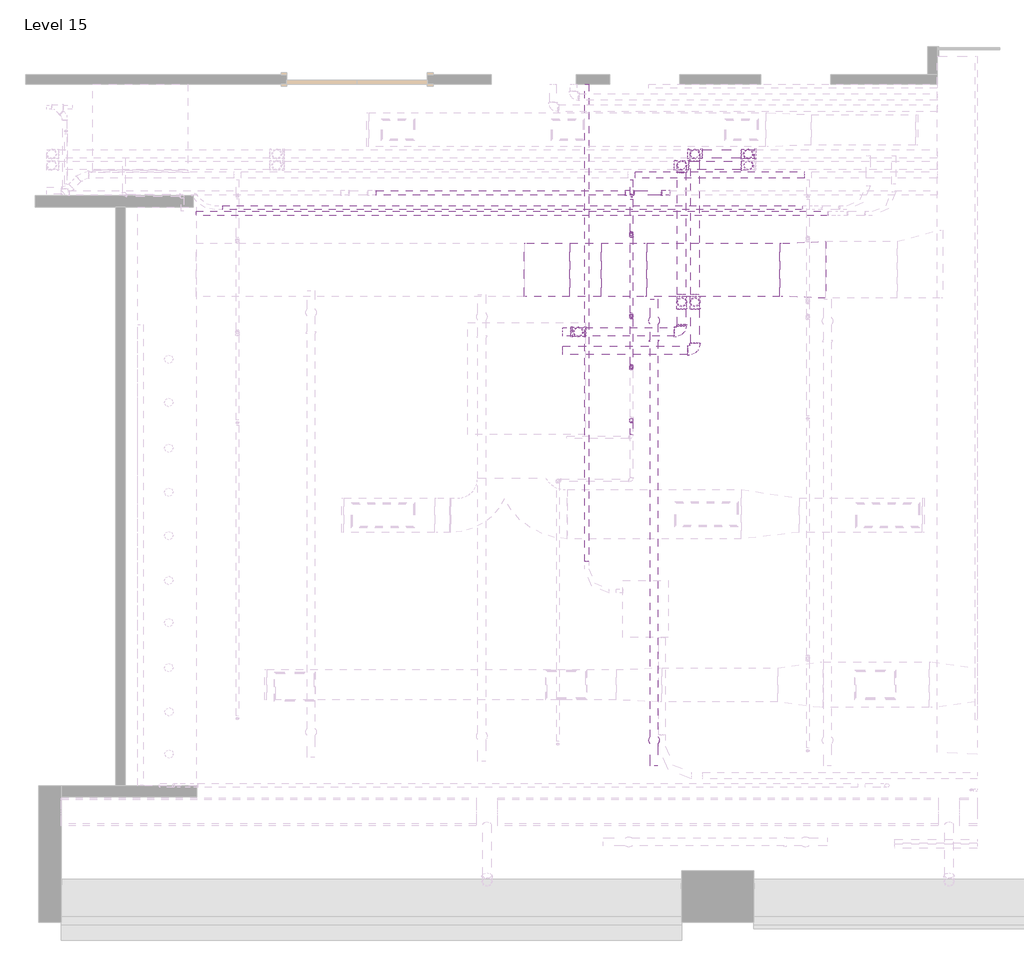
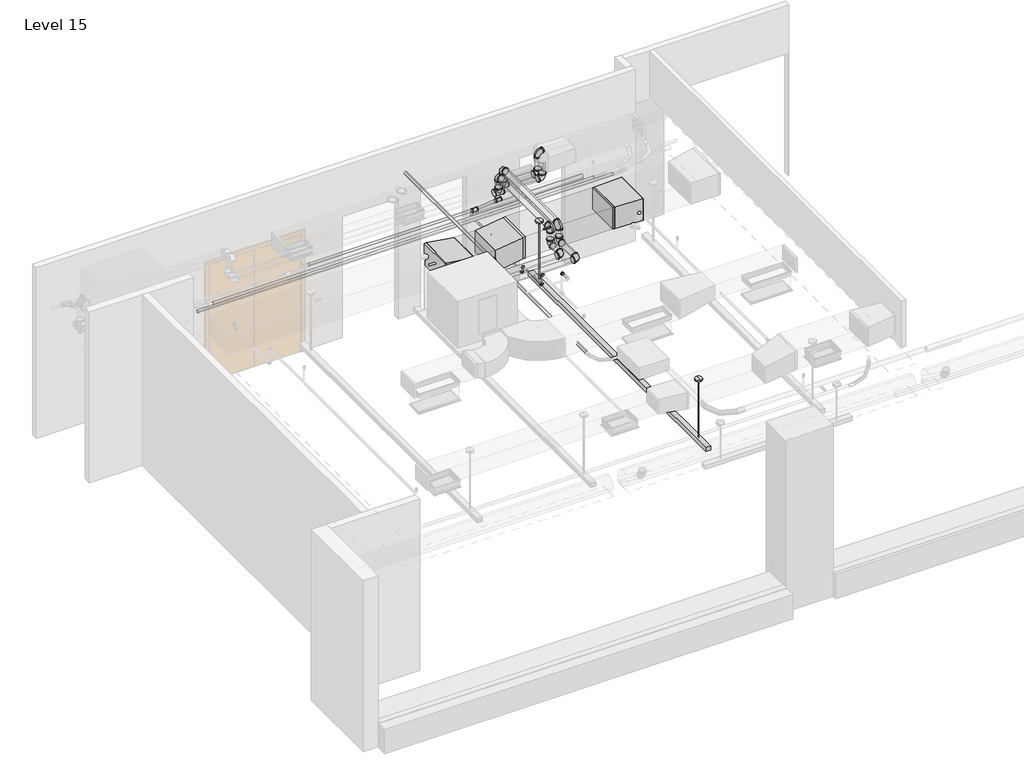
# One storey, part 10 of 11: 28 pipe segments, 24 pipe fittings, 3 cable carrier segments, 3 duct fittings, 2 duct segments, 1 light fixture.
"""IFC4 building model written with IfcOpenShell, lengths in millimetres."""

from ifc_helpers import new_model, si_unit, point, frame, frame_2d, origin, place, context, project, spatial, polyline, circle_curve, trimmed, segment, composite_curve, outline, extrude, transform, mapped, element, save
from components import rectangular_length_eccentric_transition_dtl_standard_cac19188, rectangular_length_eccentric_transition_dtl_standard_1bdf21b8, light_fixture_7ab595b3, standard_237da642, threaded_elbow_standard_6d9bc947, threaded_elbow_standard_748a37ac, threaded_tee_standard_9993dc0c

model = new_model("IFC4")

# Units and contexts
model_context = context("Model", 3, world=origin())
ifc_project = project(units=[si_unit("LENGTHUNIT", "METRE", prefix="MILLI")], contexts=[model_context])

# Site, building, storey
site = spatial("IfcSite", under=ifc_project)
building = spatial("IfcBuilding", under=site)
storey = spatial("IfcBuildingStorey", under=building, Name="Level 15", Elevation=51206.4)

# Cable carrier segments
placement = place(None, origin())
element("IfcCableCarrierSegment", 1, ObjectType="Conduit", at=placement, inside=storey, context=model_context, shape_type="SweptSolid", body=[
    extrude(outline(composite_curve([segment(trimmed(circle_curve(frame_2d((54308.375, -10808.8415084)), 27.9019), [point((54308.375, -10780.9396084))], [point((54336.2769, -10808.8415084))], False, "CARTESIAN"), True, "CONTINUOUS"), segment(trimmed(circle_curve(frame_2d((54308.375, -10808.8415084)), 27.9019), [point((54336.2769, -10808.8415084))], [point((54308.375, -10836.7434084))], False, "CARTESIAN"), True, "CONTINUOUS"), segment(trimmed(circle_curve(frame_2d((54308.375, -10808.8415084)), 27.9019), [point((54308.375, -10836.7434084))], [point((54280.4731, -10808.8415084))], False, "CARTESIAN"), True, "CONTINUOUS"), segment(trimmed(circle_curve(frame_2d((54308.375, -10808.8415084)), 27.9019), [point((54280.4731, -10808.8415084))], [point((54308.375, -10780.9396084))], False, "CARTESIAN"), True, "CONTINUOUS")], self_intersect=False)), frame((0.0, -1758.1064015, 0.0), z_axis=(0.0, 1.0, 0.0), x_axis=(0.0, 0.0, 1.0)), (0.0, 0.0, 1.0), 6391.5564511),
])
element("IfcCableCarrierSegment", 2, ObjectType="Conduit", at=placement, inside=storey, context=model_context, shape_type="SweptSolid", body=[
    extrude(outline(composite_curve([segment(trimmed(circle_curve(frame_2d((2977.9204938, 54197.25)), 27.9019), [point((3005.8223938, 54197.25))], [point((2977.9204938, 54169.3481))], False, "CARTESIAN"), True, "CONTINUOUS"), segment(trimmed(circle_curve(frame_2d((2977.9204938, 54197.25)), 27.9019), [point((2977.9204938, 54169.3481))], [point((2950.0185938, 54197.25))], False, "CARTESIAN"), True, "CONTINUOUS"), segment(trimmed(circle_curve(frame_2d((2977.9204938, 54197.25)), 27.9019), [point((2950.0185938, 54197.25))], [point((2977.9204938, 54225.1519))], False, "CARTESIAN"), True, "CONTINUOUS"), segment(trimmed(circle_curve(frame_2d((2977.9204938, 54197.25)), 27.9019), [point((2977.9204938, 54225.1519))], [point((3005.8223938, 54197.25))], False, "CARTESIAN"), True, "CONTINUOUS")], self_intersect=False)), frame((-15682.5023602, 0.0, 0.0), z_axis=(1.0, 0.0, 0.0), x_axis=(0.0, 1.0, 0.0)), (0.0, 0.0, 1.0), 7756.8010538),
])
element("IfcCableCarrierSegment", 3, ObjectType="Conduit", at=placement, inside=storey, context=model_context, shape_type="SweptSolid", body=[
    extrude(outline(composite_curve([segment(trimmed(circle_curve(frame_2d((2901.7204938, 54197.25)), 27.9019), [point((2929.6223938, 54197.25))], [point((2901.7204938, 54169.3481))], False, "CARTESIAN"), True, "CONTINUOUS"), segment(trimmed(circle_curve(frame_2d((2901.7204938, 54197.25)), 27.9019), [point((2901.7204938, 54169.3481))], [point((2873.8185938, 54197.25))], False, "CARTESIAN"), True, "CONTINUOUS"), segment(trimmed(circle_curve(frame_2d((2901.7204938, 54197.25)), 27.9019), [point((2873.8185938, 54197.25))], [point((2901.7204938, 54225.1519))], False, "CARTESIAN"), True, "CONTINUOUS"), segment(trimmed(circle_curve(frame_2d((2901.7204938, 54197.25)), 27.9019), [point((2901.7204938, 54225.1519))], [point((2929.6223938, 54197.25))], False, "CARTESIAN"), True, "CONTINUOUS")], self_intersect=False)), frame((-16037.0051026, 0.0, 0.0), z_axis=(1.0, 0.0, 0.0), x_axis=(0.0, 1.0, 0.0)), (0.0, 0.0, 1.0), 8454.2037962),
])

# Duct fittings
rectangular_length_eccentric_transition_dtl_standard_shape = rectangular_length_eccentric_transition_dtl_standard_cac19188(model_context)
element("IfcDuctFitting", 4, ObjectType="Rectangular Length Eccentric Transition - DTL : Standard", at=placement, inside=storey, context=model_context, shape_type="MappedRepresentation", body=[
    mapped(rectangular_length_eccentric_transition_dtl_standard_shape, transform((-8224.6642299, 2146.774678, 54140.1), x_axis=(1.0, 0.0, 0.0), y_axis=(0.0, 1.0, 0.0), z_axis=(0.0, 0.0, 1.0))),
])
rectangular_length_eccentric_transition_dtl_standard_2_shape = rectangular_length_eccentric_transition_dtl_standard_1bdf21b8(model_context)
element("IfcDuctFitting", 5, ObjectType="Rectangular Length Eccentric Transition - DTL : Standard", at=placement, inside=storey, context=model_context, shape_type="MappedRepresentation", body=[
    mapped(rectangular_length_eccentric_transition_dtl_standard_2_shape, transform((-11648.480013, 2146.774678, 54140.1), x_axis=(1.0, 0.0, 0.0), y_axis=(0.0, 1.0, 0.0), z_axis=(0.0, 0.0, 1.0))),
])
element("IfcDuctFitting", 6, ObjectType="Rectangular Length Eccentric Transition - DTL : Standard", at=placement, inside=storey, context=model_context, shape_type="MappedRepresentation", body=[
    mapped(rectangular_length_eccentric_transition_dtl_standard_2_shape, transform((-10007.0486308, 2146.774678, 54140.1), x_axis=(-1.0, 0.0, 0.0), y_axis=(0.0, -1.0, 0.0), z_axis=(0.0, 0.0, 1.0))),
])

# Duct segments
element("IfcDuctSegment", 7, ObjectType="Square Throat Elbows / S&D", at=placement, inside=storey, context=model_context, shape_type="SweptSolid", body=[
    extrude(outline(polyline([(-10007.0486308, 1791.174678), (-10007.0486308, 2502.374678), (-8224.6642299, 2502.374678), (-8224.6642299, 1791.174678), (-10007.0486308, 1791.174678)])), frame((0.0, 0.0, 53911.5), z_axis=(0.0, 0.0, 1.0), x_axis=(1.0, 0.0, 0.0)), (0.0, 0.0, 1.0), 457.2),
])
element("IfcDuctSegment", 8, ObjectType="Square Throat Elbows / S&D", at=placement, inside=storey, context=model_context, shape_type="SweptSolid", body=[
    extrude(outline(polyline([(-11038.880013, 1791.174678), (-11038.880013, 2502.374678), (-10616.6486308, 2502.374678), (-10616.6486308, 1791.174678), (-11038.880013, 1791.174678)])), frame((0.0, 0.0, 53822.6), z_axis=(0.0, 0.0, 1.0), x_axis=(1.0, 0.0, 0.0)), (0.0, 0.0, 1.0), 457.2),
])

# Light fixture
light_fixture_shape = light_fixture_7ab595b3(model_context)
element("IfcLightFixture", 9, ObjectType="Linear : 20' 8\"", at=placement, inside=storey, context=model_context, shape_type="MappedRepresentation", body=[
    mapped(light_fixture_shape, transform((-9907.8415084, 1196.5935985, 49703.9365365), x_axis=(0.0, 1.0, 0.0), y_axis=(-1.0, 0.0, 0.0), z_axis=(0.0, 0.0, 1.0))),
])

# Pipe fittings
standard_shape = standard_237da642(model_context)
element("IfcPipeFitting", 10, ObjectType="Victaulic Grooved Elbow : Standard", at=placement, inside=storey, context=model_context, shape_type="MappedRepresentation", body=[
    mapped(standard_shape, transform((-10213.0653587, 1528.4968876, 53828.95), x_axis=(0.0, 0.0, -1.0), y_axis=(0.0, 1.0, 0.0), z_axis=(1.0, 0.0, 0.0))),
])
element("IfcPipeFitting", 11, ObjectType="Victaulic Grooved Elbow : Standard", at=placement, inside=storey, context=model_context, shape_type="MappedRepresentation", body=[
    mapped(standard_shape, transform((-10213.0653587, 2620.4435985, 53828.95), x_axis=(0.0, 1.0, 0.0), y_axis=(0.0, 0.0, 1.0), z_axis=(1.0, 0.0, 0.0))),
])
element("IfcPipeFitting", 12, ObjectType="Victaulic Grooved Elbow : Standard", at=placement, inside=storey, context=model_context, shape_type="MappedRepresentation", body=[
    mapped(standard_shape, transform((-10213.0653587, 2620.4435985, 53949.6), x_axis=(0.0, 0.0, 1.0), y_axis=(0.0, 1.0, 0.0), z_axis=(-1.0, 0.0, 0.0))),
])
element("IfcPipeFitting", 13, ObjectType="Victaulic Grooved Elbow : Standard", at=placement, inside=storey, context=model_context, shape_type="MappedRepresentation", body=[
    mapped(standard_shape, transform((-10213.0653587, 842.6968876, 54216.3), x_axis=(0.0, 0.0, 1.0), y_axis=(0.0, -1.0, 0.0), z_axis=(1.0, 0.0, 0.0))),
])
element("IfcPipeFitting", 14, ObjectType="Victaulic Grooved Elbow : Standard", at=placement, inside=storey, context=model_context, shape_type="MappedRepresentation", body=[
    mapped(standard_shape, transform((-10213.0653587, 138.9643012, 54673.5), x_axis=(0.0, 0.0, 1.0), y_axis=(0.0, -1.0, 0.0), z_axis=(1.0, 0.0, 0.0))),
])
element("IfcPipeFitting", 15, ObjectType="Victaulic Grooved Elbow : Standard", at=placement, inside=storey, context=model_context, shape_type="MappedRepresentation", body=[
    mapped(standard_shape, transform((-10213.0653587, 1528.4968876, 53971.825), x_axis=(0.0, 0.0, 1.0), y_axis=(0.0, -1.0, 0.0), z_axis=(1.0, 0.0, 0.0))),
])
element("IfcPipeFitting", 16, ObjectType="Victaulic Grooved Elbow : Standard", at=placement, inside=storey, context=model_context, shape_type="MappedRepresentation", body=[
    mapped(standard_shape, transform((-10213.0653587, 842.6968876, 53971.825), x_axis=(0.0, 0.0, -1.0), y_axis=(0.0, 1.0, 0.0), z_axis=(1.0, 0.0, 0.0))),
])
threaded_elbow_standard_shape = threaded_elbow_standard_6d9bc947(model_context)
element("IfcPipeFitting", 17, ObjectType="Threaded Elbow : Standard", at=placement, inside=storey, context=model_context, shape_type="MappedRepresentation", body=[
    mapped(threaded_elbow_standard_shape, transform((-8648.6307372, 3697.146744, 54114.7), x_axis=(1.0, 0.0, 0.0), y_axis=(0.0, 0.0, 1.0), z_axis=(0.0, -1.0, 0.0))),
])
element("IfcPipeFitting", 18, ObjectType="Threaded Elbow : Standard", at=placement, inside=storey, context=model_context, shape_type="MappedRepresentation", body=[
    mapped(threaded_elbow_standard_shape, transform((-8648.6307372, 3697.146744, 54559.2), x_axis=(0.0, 0.0, 1.0), y_axis=(1.0, 0.0, 0.0), z_axis=(0.0, 1.0, 0.0))),
])
element("IfcPipeFitting", 19, ObjectType="Threaded Elbow : Standard", at=placement, inside=storey, context=model_context, shape_type="MappedRepresentation", body=[
    mapped(threaded_elbow_standard_shape, transform((-8648.6307372, 3544.746744, 54114.7), x_axis=(1.0, 0.0, 0.0), y_axis=(0.0, 0.0, 1.0), z_axis=(0.0, -1.0, 0.0))),
])
element("IfcPipeFitting", 20, ObjectType="Threaded Elbow : Standard", at=placement, inside=storey, context=model_context, shape_type="MappedRepresentation", body=[
    mapped(threaded_elbow_standard_shape, transform((-9362.2415084, 1067.3435985, 54114.7), x_axis=(1.0, 0.0, 0.0), y_axis=(0.0, 1.0, 0.0), z_axis=(0.0, 0.0, 1.0))),
])
element("IfcPipeFitting", 21, ObjectType="Threaded Elbow : Standard", at=placement, inside=storey, context=model_context, shape_type="MappedRepresentation", body=[
    mapped(threaded_elbow_standard_shape, transform((-9362.2415084, 1715.0435985, 54114.7), x_axis=(0.0, 1.0, 0.0), y_axis=(0.0, 0.0, 1.0), z_axis=(1.0, 0.0, 0.0))),
])
element("IfcPipeFitting", 22, ObjectType="Threaded Elbow : Standard", at=placement, inside=storey, context=model_context, shape_type="MappedRepresentation", body=[
    mapped(threaded_elbow_standard_shape, transform((-9362.2415084, 1715.0435985, 54457.6), x_axis=(0.0, 0.0, 1.0), y_axis=(0.0, 1.0, 0.0), z_axis=(-1.0, 0.0, 0.0))),
])
element("IfcPipeFitting", 23, ObjectType="Threaded Elbow : Standard", at=placement, inside=storey, context=model_context, shape_type="MappedRepresentation", body=[
    mapped(threaded_elbow_standard_shape, transform((-9362.2415084, 3697.146744, 54457.6), x_axis=(0.0, 1.0, 0.0), y_axis=(0.0, 0.0, -1.0), z_axis=(-1.0, 0.0, 0.0))),
])
element("IfcPipeFitting", 24, ObjectType="Threaded Elbow : Standard", at=placement, inside=storey, context=model_context, shape_type="MappedRepresentation", body=[
    mapped(threaded_elbow_standard_shape, transform((-9540.0415084, 1314.9935985, 54114.7), x_axis=(1.0, 0.0, 0.0), y_axis=(0.0, 1.0, 0.0), z_axis=(0.0, 0.0, 1.0))),
])
element("IfcPipeFitting", 25, ObjectType="Threaded Elbow : Standard", at=placement, inside=storey, context=model_context, shape_type="MappedRepresentation", body=[
    mapped(threaded_elbow_standard_shape, transform((-9540.0415084, 1715.0435985, 54114.7), x_axis=(0.0, 1.0, 0.0), y_axis=(0.0, 0.0, 1.0), z_axis=(1.0, 0.0, 0.0))),
])
element("IfcPipeFitting", 26, ObjectType="Threaded Elbow : Standard", at=placement, inside=storey, context=model_context, shape_type="MappedRepresentation", body=[
    mapped(threaded_elbow_standard_shape, transform((-9540.0415084, 1715.0435985, 54457.6), x_axis=(0.0, 0.0, 1.0), y_axis=(0.0, 1.0, 0.0), z_axis=(-1.0, 0.0, 0.0))),
])
element("IfcPipeFitting", 27, ObjectType="Threaded Elbow : Standard", at=placement, inside=storey, context=model_context, shape_type="MappedRepresentation", body=[
    mapped(threaded_elbow_standard_shape, transform((-10923.0915084, 1314.9935985, 54114.7), x_axis=(-1.0, 0.0, 0.0), y_axis=(0.0, 0.0, 1.0), z_axis=(0.0, 1.0, 0.0))),
])
element("IfcPipeFitting", 28, ObjectType="Threaded Elbow : Standard", at=placement, inside=storey, context=model_context, shape_type="MappedRepresentation", body=[
    mapped(threaded_elbow_standard_shape, transform((-10923.0915084, 1314.9935985, 54495.7), x_axis=(0.0, 0.0, 1.0), y_axis=(-1.0, 0.0, 0.0), z_axis=(0.0, -1.0, 0.0))),
])
element("IfcPipeFitting", 29, ObjectType="Threaded Elbow : Standard", at=placement, inside=storey, context=model_context, shape_type="MappedRepresentation", body=[
    mapped(threaded_elbow_standard_shape, transform((-9540.0415084, 3544.746744, 54457.6), x_axis=(0.0, 1.0, 0.0), y_axis=(0.0, 0.0, -1.0), z_axis=(-1.0, 0.0, 0.0))),
])
threaded_elbow_standard_2_shape = threaded_elbow_standard_748a37ac(model_context)
element("IfcPipeFitting", 30, ObjectType="Threaded Elbow : Standard", at=placement, inside=storey, context=model_context, shape_type="MappedRepresentation", body=[
    mapped(threaded_elbow_standard_2_shape, transform((-10237.2226091, 3176.4435985, 54190.9), x_axis=(1.0, 0.0, 0.0), y_axis=(0.0, 0.0, 1.0), z_axis=(0.0, -1.0, 0.0))),
])
element("IfcPipeFitting", 31, ObjectType="Threaded Elbow : Standard", at=placement, inside=storey, context=model_context, shape_type="MappedRepresentation", body=[
    mapped(threaded_elbow_standard_2_shape, transform((-9753.8928948, 3176.4435985, 54241.7), x_axis=(-1.0, 0.0, 0.0), y_axis=(0.0, 0.0, -1.0), z_axis=(0.0, -1.0, 0.0))),
])
threaded_tee_standard_shape = threaded_tee_standard_9993dc0c(model_context)
element("IfcPipeFitting", 32, ObjectType="Threaded Tee : Standard", at=placement, inside=storey, context=model_context, shape_type="MappedRepresentation", body=[
    mapped(threaded_tee_standard_shape, transform((-9362.2415084, 3697.146744, 54114.7), x_axis=(-1.0, 0.0, 0.0), y_axis=(0.0, 0.0, -1.0), z_axis=(0.0, -1.0, 0.0))),
])
element("IfcPipeFitting", 33, ObjectType="Threaded Tee : Standard", at=placement, inside=storey, context=model_context, shape_type="MappedRepresentation", body=[
    mapped(threaded_tee_standard_shape, transform((-9540.0415084, 3544.746744, 54114.7), x_axis=(-1.0, 0.0, 0.0), y_axis=(0.0, 0.0, -1.0), z_axis=(0.0, -1.0, 0.0))),
])

# Pipe segments
element("IfcPipeSegment", 34, ObjectType="Fire Prot Sched 10 Main", at=placement, inside=storey, context=model_context, shape_type="SweptSolid", body=[
    extrude(outline(composite_curve([segment(trimmed(circle_curve(frame_2d((-10213.0653587, 1528.4968876)), 16.7005), [point((-10196.3648587, 1528.4968876))], [point((-10213.0653587, 1511.7963876))], False, "CARTESIAN"), True, "CONTINUOUS"), segment(trimmed(circle_curve(frame_2d((-10213.0653587, 1528.4968876)), 16.7005), [point((-10213.0653587, 1511.7963876))], [point((-10229.7658587, 1528.4968876))], False, "CARTESIAN"), True, "CONTINUOUS"), segment(trimmed(circle_curve(frame_2d((-10213.0653587, 1528.4968876)), 16.7005), [point((-10229.7658587, 1528.4968876))], [point((-10213.0653587, 1545.1973876))], False, "CARTESIAN"), True, "CONTINUOUS"), segment(trimmed(circle_curve(frame_2d((-10213.0653587, 1528.4968876)), 16.7005), [point((-10213.0653587, 1545.1973876))], [point((-10196.3648587, 1528.4968876))], False, "CARTESIAN"), True, "CONTINUOUS")], self_intersect=False)), frame((0.0, 0.0, 53865.8950937), z_axis=(0.0, 0.0, 1.0), x_axis=(1.0, 0.0, 0.0)), (0.0, 0.0, 1.0), 68.9848125),
])
element("IfcPipeSegment", 35, ObjectType="Fire Prot Sched 10 Main", at=placement, inside=storey, context=model_context, shape_type="SweptSolid", body=[
    extrude(outline(composite_curve([segment(trimmed(circle_curve(frame_2d((53828.95, -10213.0653587)), 16.7005), [point((53828.95, -10196.3648587))], [point((53845.6505, -10213.0653587))], False, "CARTESIAN"), True, "CONTINUOUS"), segment(trimmed(circle_curve(frame_2d((53828.95, -10213.0653587)), 16.7005), [point((53845.6505, -10213.0653587))], [point((53828.95, -10229.7658587))], False, "CARTESIAN"), True, "CONTINUOUS"), segment(trimmed(circle_curve(frame_2d((53828.95, -10213.0653587)), 16.7005), [point((53828.95, -10229.7658587))], [point((53812.2495, -10213.0653587))], False, "CARTESIAN"), True, "CONTINUOUS"), segment(trimmed(circle_curve(frame_2d((53828.95, -10213.0653587)), 16.7005), [point((53812.2495, -10213.0653587))], [point((53828.95, -10196.3648587))], False, "CARTESIAN"), True, "CONTINUOUS")], self_intersect=False)), frame((0.0, 1565.4419813, 0.0), z_axis=(0.0, 1.0, 0.0), x_axis=(0.0, 0.0, 1.0)), (0.0, 0.0, 1.0), 1018.0565234),
])
element("IfcPipeSegment", 36, ObjectType="Fire Prot Sched 10 Main", at=placement, inside=storey, context=model_context, shape_type="SweptSolid", body=[
    extrude(outline(composite_curve([segment(trimmed(circle_curve(frame_2d((-10213.0653587, 2620.4435985)), 16.7005), [point((-10229.7658587, 2620.4435985))], [point((-10213.0653587, 2637.1440985))], False, "CARTESIAN"), True, "CONTINUOUS"), segment(trimmed(circle_curve(frame_2d((-10213.0653587, 2620.4435985)), 16.7005), [point((-10213.0653587, 2637.1440985))], [point((-10196.3648587, 2620.4435985))], False, "CARTESIAN"), True, "CONTINUOUS"), segment(trimmed(circle_curve(frame_2d((-10213.0653587, 2620.4435985)), 16.7005), [point((-10196.3648587, 2620.4435985))], [point((-10213.0653587, 2603.7430985))], False, "CARTESIAN"), True, "CONTINUOUS"), segment(trimmed(circle_curve(frame_2d((-10213.0653587, 2620.4435985)), 16.7005), [point((-10213.0653587, 2603.7430985))], [point((-10229.7658587, 2620.4435985))], False, "CARTESIAN"), True, "CONTINUOUS")], self_intersect=False)), frame((0.0, 0.0, 53865.8950937), z_axis=(0.0, 0.0, 1.0), x_axis=(1.0, 0.0, 0.0)), (0.0, 0.0, 1.0), 46.7598125),
])
element("IfcPipeSegment", 37, ObjectType="Fire Prot Sched 10 Main", at=placement, inside=storey, context=model_context, shape_type="SweptSolid", body=[
    extrude(outline(composite_curve([segment(trimmed(circle_curve(frame_2d((-10213.0653587, 3125.0518012)), 10.668), [point((-10202.3973587, 3125.0518012))], [point((-10213.0653587, 3114.3838012))], False, "CARTESIAN"), True, "CONTINUOUS"), segment(trimmed(circle_curve(frame_2d((-10213.0653587, 3125.0518012)), 10.668), [point((-10213.0653587, 3114.3838012))], [point((-10223.7333587, 3125.0518012))], False, "CARTESIAN"), True, "CONTINUOUS"), segment(trimmed(circle_curve(frame_2d((-10213.0653587, 3125.0518012)), 10.668), [point((-10223.7333587, 3125.0518012))], [point((-10213.0653587, 3135.7198012))], False, "CARTESIAN"), True, "CONTINUOUS"), segment(trimmed(circle_curve(frame_2d((-10213.0653587, 3125.0518012)), 10.668), [point((-10213.0653587, 3135.7198012))], [point((-10202.3973587, 3125.0518012))], False, "CARTESIAN"), True, "CONTINUOUS")], self_intersect=False)), frame((0.0, 0.0, 53985.1), z_axis=(0.0, 0.0, 1.0), x_axis=(1.0, 0.0, 0.0)), (0.0, 0.0, 1.0), 218.5),
])
element("IfcPipeSegment", 38, ObjectType="Fire Prot Sched 10 Main", at=placement, inside=storey, context=model_context, shape_type="SweptSolid", body=[
    extrude(outline(composite_curve([segment(trimmed(circle_curve(frame_2d((53949.6, -10213.0653587)), 16.7005), [point((53949.6, -10229.7658587))], [point((53932.8995, -10213.0653587))], False, "CARTESIAN"), True, "CONTINUOUS"), segment(trimmed(circle_curve(frame_2d((53949.6, -10213.0653587)), 16.7005), [point((53932.8995, -10213.0653587))], [point((53949.6, -10196.3648587))], False, "CARTESIAN"), True, "CONTINUOUS"), segment(trimmed(circle_curve(frame_2d((53949.6, -10213.0653587)), 16.7005), [point((53949.6, -10196.3648587))], [point((53966.3005, -10213.0653587))], False, "CARTESIAN"), True, "CONTINUOUS"), segment(trimmed(circle_curve(frame_2d((53949.6, -10213.0653587)), 16.7005), [point((53966.3005, -10213.0653587))], [point((53949.6, -10229.7658587))], False, "CARTESIAN"), True, "CONTINUOUS")], self_intersect=False)), frame((0.0, 2657.3886922, 0.0), z_axis=(0.0, 1.0, 0.0), x_axis=(0.0, 0.0, 1.0)), (0.0, 0.0, 1.0), 435.663109),
])
element("IfcPipeSegment", 39, ObjectType="Fire Prot Sched 10 Main", at=placement, inside=storey, context=model_context, shape_type="SweptSolid", body=[
    extrude(outline(composite_curve([segment(trimmed(circle_curve(frame_2d((53949.6, -10213.0653587)), 16.7005), [point((53949.6, -10229.7658587))], [point((53932.8995, -10213.0653587))], False, "CARTESIAN"), True, "CONTINUOUS"), segment(trimmed(circle_curve(frame_2d((53949.6, -10213.0653587)), 16.7005), [point((53932.8995, -10213.0653587))], [point((53949.6, -10196.3648587))], False, "CARTESIAN"), True, "CONTINUOUS"), segment(trimmed(circle_curve(frame_2d((53949.6, -10213.0653587)), 16.7005), [point((53949.6, -10196.3648587))], [point((53966.3005, -10213.0653587))], False, "CARTESIAN"), True, "CONTINUOUS"), segment(trimmed(circle_curve(frame_2d((53949.6, -10213.0653587)), 16.7005), [point((53966.3005, -10213.0653587))], [point((53949.6, -10229.7658587))], False, "CARTESIAN"), True, "CONTINUOUS")], self_intersect=False)), frame((0.0, 3157.0518012, 0.0), z_axis=(0.0, 1.0, 0.0), x_axis=(0.0, 0.0, 1.0)), (0.0, 0.0, 1.0), 193.4671119),
])
element("IfcPipeSegment", 40, ObjectType="Fire Prot Sched 10 Main", at=placement, inside=storey, context=model_context, shape_type="SweptSolid", body=[
    extrude(outline(composite_curve([segment(trimmed(circle_curve(frame_2d((-10213.0653587, 842.6968876)), 16.7005), [point((-10229.7658587, 842.6968876))], [point((-10213.0653587, 859.3973876))], False, "CARTESIAN"), True, "CONTINUOUS"), segment(trimmed(circle_curve(frame_2d((-10213.0653587, 842.6968876)), 16.7005), [point((-10213.0653587, 859.3973876))], [point((-10196.3648587, 842.6968876))], False, "CARTESIAN"), True, "CONTINUOUS"), segment(trimmed(circle_curve(frame_2d((-10213.0653587, 842.6968876)), 16.7005), [point((-10196.3648587, 842.6968876))], [point((-10213.0653587, 825.9963876))], False, "CARTESIAN"), True, "CONTINUOUS"), segment(trimmed(circle_curve(frame_2d((-10213.0653587, 842.6968876)), 16.7005), [point((-10213.0653587, 825.9963876))], [point((-10229.7658587, 842.6968876))], False, "CARTESIAN"), True, "CONTINUOUS")], self_intersect=False)), frame((0.0, 0.0, 54008.7700937), z_axis=(0.0, 0.0, 1.0), x_axis=(1.0, 0.0, 0.0)), (0.0, 0.0, 1.0), 170.5848125),
])
element("IfcPipeSegment", 41, ObjectType="Fire Prot Sched 10 Main", at=placement, inside=storey, context=model_context, shape_type="SweptSolid", body=[
    extrude(outline(composite_curve([segment(trimmed(circle_curve(frame_2d((53971.825, -10213.0653587)), 16.7005), [point((53971.825, -10229.7658587))], [point((53955.1245, -10213.0653587))], False, "CARTESIAN"), True, "CONTINUOUS"), segment(trimmed(circle_curve(frame_2d((53971.825, -10213.0653587)), 16.7005), [point((53955.1245, -10213.0653587))], [point((53971.825, -10196.3648587))], False, "CARTESIAN"), True, "CONTINUOUS"), segment(trimmed(circle_curve(frame_2d((53971.825, -10213.0653587)), 16.7005), [point((53971.825, -10196.3648587))], [point((53988.5255, -10213.0653587))], False, "CARTESIAN"), True, "CONTINUOUS"), segment(trimmed(circle_curve(frame_2d((53971.825, -10213.0653587)), 16.7005), [point((53988.5255, -10213.0653587))], [point((53971.825, -10229.7658587))], False, "CARTESIAN"), True, "CONTINUOUS")], self_intersect=False)), frame((0.0, 879.6419813, 0.0), z_axis=(0.0, 1.0, 0.0), x_axis=(0.0, 0.0, 1.0)), (0.0, 0.0, 1.0), 611.9098125),
])
element("IfcPipeSegment", 42, ObjectType="Fire Prot Sched 10 Main", at=placement, inside=storey, context=model_context, shape_type="SweptSolid", body=[
    extrude(outline(composite_curve([segment(trimmed(circle_curve(frame_2d((54673.5, -10213.0653587)), 16.7005), [point((54673.5, -10229.7658587))], [point((54656.7995, -10213.0653587))], False, "CARTESIAN"), True, "CONTINUOUS"), segment(trimmed(circle_curve(frame_2d((54673.5, -10213.0653587)), 16.7005), [point((54656.7995, -10213.0653587))], [point((54673.5, -10196.3648587))], False, "CARTESIAN"), True, "CONTINUOUS"), segment(trimmed(circle_curve(frame_2d((54673.5, -10213.0653587)), 16.7005), [point((54673.5, -10196.3648587))], [point((54690.2005, -10213.0653587))], False, "CARTESIAN"), True, "CONTINUOUS"), segment(trimmed(circle_curve(frame_2d((54673.5, -10213.0653587)), 16.7005), [point((54690.2005, -10213.0653587))], [point((54673.5, -10229.7658587))], False, "CARTESIAN"), True, "CONTINUOUS")], self_intersect=False)), frame((0.0, -59.040605, 0.0), z_axis=(0.0, 1.0, 0.0), x_axis=(0.0, 0.0, 1.0)), (0.0, 0.0, 1.0), 161.0598125),
])
element("IfcPipeSegment", 43, ObjectType="Fire Prot Sched 10 Main", at=placement, inside=storey, context=model_context, shape_type="SweptSolid", body=[
    extrude(outline(composite_curve([segment(trimmed(circle_curve(frame_2d((3418.1189131, 53949.6)), 44.45), [point((3373.6689131, 53949.6))], [point((3418.1189131, 53994.05))], False, "CARTESIAN"), True, "CONTINUOUS"), segment(trimmed(circle_curve(frame_2d((3418.1189131, 53949.6)), 44.45), [point((3418.1189131, 53994.05))], [point((3462.5689131, 53949.6))], False, "CARTESIAN"), True, "CONTINUOUS"), segment(trimmed(circle_curve(frame_2d((3418.1189131, 53949.6)), 44.45), [point((3462.5689131, 53949.6))], [point((3418.1189131, 53905.15))], False, "CARTESIAN"), True, "CONTINUOUS"), segment(trimmed(circle_curve(frame_2d((3418.1189131, 53949.6)), 44.45), [point((3418.1189131, 53905.15))], [point((3373.6689131, 53949.6))], False, "CARTESIAN"), True, "CONTINUOUS")], self_intersect=False)), frame((-10162.2653587, 0.0, 0.0), z_axis=(1.0, 0.0, 0.0), x_axis=(0.0, 1.0, 0.0)), (0.0, 0.0, 1.0), 2259.5972525),
])
element("IfcPipeSegment", 44, ObjectType="Hydronic", at=placement, inside=storey, context=model_context, shape_type="SweptSolid", body=[
    extrude(outline(composite_curve([segment(trimmed(circle_curve(frame_2d((3697.146744, 54114.7)), 57.15), [point((3639.996744, 54114.7))], [point((3697.146744, 54171.85))], False, "CARTESIAN"), True, "CONTINUOUS"), segment(trimmed(circle_curve(frame_2d((3697.146744, 54114.7)), 57.15), [point((3697.146744, 54171.85))], [point((3754.296744, 54114.7))], False, "CARTESIAN"), True, "CONTINUOUS"), segment(trimmed(circle_curve(frame_2d((3697.146744, 54114.7)), 57.15), [point((3754.296744, 54114.7))], [point((3697.146744, 54057.55))], False, "CARTESIAN"), True, "CONTINUOUS"), segment(trimmed(circle_curve(frame_2d((3697.146744, 54114.7)), 57.15), [point((3697.146744, 54057.55))], [point((3639.996744, 54114.7))], False, "CARTESIAN"), True, "CONTINUOUS")], self_intersect=False)), frame((-9267.0669146, 0.0, 0.0), z_axis=(1.0, 0.0, 0.0), x_axis=(0.0, 1.0, 0.0)), (0.0, 0.0, 1.0), 521.52724),
])
element("IfcPipeSegment", 45, ObjectType="Hydronic", at=placement, inside=storey, context=model_context, shape_type="SweptSolid", body=[
    extrude(outline(composite_curve([segment(trimmed(circle_curve(frame_2d((-8648.6307372, 3697.146744)), 57.15), [point((-8705.7807372, 3697.146744))], [point((-8648.6307372, 3754.296744))], False, "CARTESIAN"), True, "CONTINUOUS"), segment(trimmed(circle_curve(frame_2d((-8648.6307372, 3697.146744)), 57.15), [point((-8648.6307372, 3754.296744))], [point((-8591.4807372, 3697.146744))], False, "CARTESIAN"), True, "CONTINUOUS"), segment(trimmed(circle_curve(frame_2d((-8648.6307372, 3697.146744)), 57.15), [point((-8591.4807372, 3697.146744))], [point((-8648.6307372, 3639.996744))], False, "CARTESIAN"), True, "CONTINUOUS"), segment(trimmed(circle_curve(frame_2d((-8648.6307372, 3697.146744)), 57.15), [point((-8648.6307372, 3639.996744))], [point((-8705.7807372, 3697.146744))], False, "CARTESIAN"), True, "CONTINUOUS")], self_intersect=False)), frame((0.0, 0.0, 54212.5733437), z_axis=(0.0, 0.0, 1.0), x_axis=(1.0, 0.0, 0.0)), (0.0, 0.0, 1.0), 249.7177187),
])
element("IfcPipeSegment", 46, ObjectType="Hydronic", at=placement, inside=storey, context=model_context, shape_type="SweptSolid", body=[
    extrude(outline(composite_curve([segment(trimmed(circle_curve(frame_2d((3176.4435985, 54190.9)), 26.9875), [point((3149.4560985, 54190.9))], [point((3176.4435985, 54217.8875))], False, "CARTESIAN"), True, "CONTINUOUS"), segment(trimmed(circle_curve(frame_2d((3176.4435985, 54190.9)), 26.9875), [point((3176.4435985, 54217.8875))], [point((3203.4310985, 54190.9))], False, "CARTESIAN"), True, "CONTINUOUS"), segment(trimmed(circle_curve(frame_2d((3176.4435985, 54190.9)), 26.9875), [point((3203.4310985, 54190.9))], [point((3176.4435985, 54163.9125))], False, "CARTESIAN"), True, "CONTINUOUS"), segment(trimmed(circle_curve(frame_2d((3176.4435985, 54190.9)), 26.9875), [point((3176.4435985, 54163.9125))], [point((3149.4560985, 54190.9))], False, "CARTESIAN"), True, "CONTINUOUS")], self_intersect=False)), frame((-13625.8716334, 0.0, 0.0), z_axis=(1.0, 0.0, 0.0), x_axis=(0.0, 1.0, 0.0)), (0.0, 0.0, 1.0), 3331.3640868),
])
element("IfcPipeSegment", 47, ObjectType="Hydronic", at=placement, inside=storey, context=model_context, shape_type="SweptSolid", body=[
    extrude(outline(composite_curve([segment(trimmed(circle_curve(frame_2d((0.0, 26.9875)), 26.9875), [point((0.0, 0.0))], [point((-26.9874999, 26.9875))], False, "CARTESIAN"), True, "CONTINUOUS"), segment(trimmed(circle_curve(frame_2d((0.0, 26.9875)), 26.9875), [point((-26.9874999, 26.9875))], [point((0.0, 53.975))], False, "CARTESIAN"), True, "CONTINUOUS"), segment(trimmed(circle_curve(frame_2d((0.0, 26.9875)), 26.9875), [point((0.0, 53.975))], [point((26.9875, 26.9875))], False, "CARTESIAN"), True, "CONTINUOUS"), segment(trimmed(circle_curve(frame_2d((0.0, 26.9875)), 26.9875), [point((26.9875, 26.9875))], [point((0.0, 0.0))], False, "CARTESIAN"), True, "CONTINUOUS")], self_intersect=False)), frame((-10180.2514844, 3149.4560985, 54196.8879065), z_axis=(0.994521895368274, 0.0, 0.10452846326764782), x_axis=(0.10452846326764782, 0.0, -0.994521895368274)), (0.0, 0.0, 1.0), 371.4221545),
])
element("IfcPipeSegment", 48, ObjectType="Hydronic", at=placement, inside=storey, context=model_context, shape_type="SweptSolid", body=[
    extrude(outline(composite_curve([segment(trimmed(circle_curve(frame_2d((3544.746744, 54114.7)), 57.15), [point((3487.596744, 54114.7))], [point((3544.746744, 54171.85))], False, "CARTESIAN"), True, "CONTINUOUS"), segment(trimmed(circle_curve(frame_2d((3544.746744, 54114.7)), 57.15), [point((3544.746744, 54171.85))], [point((3601.896744, 54114.7))], False, "CARTESIAN"), True, "CONTINUOUS"), segment(trimmed(circle_curve(frame_2d((3544.746744, 54114.7)), 57.15), [point((3601.896744, 54114.7))], [point((3544.746744, 54057.55))], False, "CARTESIAN"), True, "CONTINUOUS"), segment(trimmed(circle_curve(frame_2d((3544.746744, 54114.7)), 57.15), [point((3544.746744, 54057.55))], [point((3487.596744, 54114.7))], False, "CARTESIAN"), True, "CONTINUOUS")], self_intersect=False)), frame((-9444.8669146, 0.0, 0.0), z_axis=(1.0, 0.0, 0.0), x_axis=(0.0, 1.0, 0.0)), (0.0, 0.0, 1.0), 699.32724),
])
element("IfcPipeSegment", 49, ObjectType="Hydronic", at=placement, inside=storey, context=model_context, shape_type="SweptSolid", body=[
    extrude(outline(composite_curve([segment(trimmed(circle_curve(frame_2d((-8648.6307372, 3544.746744)), 57.15), [point((-8705.7807372, 3544.746744))], [point((-8648.6307372, 3601.896744))], False, "CARTESIAN"), True, "CONTINUOUS"), segment(trimmed(circle_curve(frame_2d((-8648.6307372, 3544.746744)), 57.15), [point((-8648.6307372, 3601.896744))], [point((-8591.4807372, 3544.746744))], False, "CARTESIAN"), True, "CONTINUOUS"), segment(trimmed(circle_curve(frame_2d((-8648.6307372, 3544.746744)), 57.15), [point((-8591.4807372, 3544.746744))], [point((-8648.6307372, 3487.596744))], False, "CARTESIAN"), True, "CONTINUOUS"), segment(trimmed(circle_curve(frame_2d((-8648.6307372, 3544.746744)), 57.15), [point((-8648.6307372, 3487.596744))], [point((-8705.7807372, 3544.746744))], False, "CARTESIAN"), True, "CONTINUOUS")], self_intersect=False)), frame((0.0, 0.0, 54212.5733437), z_axis=(0.0, 0.0, 1.0), x_axis=(1.0, 0.0, 0.0)), (0.0, 0.0, 1.0), 249.7177187),
])
element("IfcPipeSegment", 50, ObjectType="Hydronic", at=placement, inside=storey, context=model_context, shape_type="SweptSolid", body=[
    extrude(outline(composite_curve([segment(trimmed(circle_curve(frame_2d((54114.7, -9362.2415084)), 57.15), [point((54114.7, -9305.0915084))], [point((54171.85, -9362.2415084))], False, "CARTESIAN"), True, "CONTINUOUS"), segment(trimmed(circle_curve(frame_2d((54114.7, -9362.2415084)), 57.15), [point((54171.85, -9362.2415084))], [point((54114.7, -9419.3915084))], False, "CARTESIAN"), True, "CONTINUOUS"), segment(trimmed(circle_curve(frame_2d((54114.7, -9362.2415084)), 57.15), [point((54114.7, -9419.3915084))], [point((54057.55, -9362.2415084))], False, "CARTESIAN"), True, "CONTINUOUS"), segment(trimmed(circle_curve(frame_2d((54114.7, -9362.2415084)), 57.15), [point((54057.55, -9362.2415084))], [point((54114.7, -9305.0915084))], False, "CARTESIAN"), True, "CONTINUOUS")], self_intersect=False)), frame((0.0, 1165.2169422, 0.0), z_axis=(0.0, 1.0, 0.0), x_axis=(0.0, 0.0, 1.0)), (0.0, 0.0, 1.0), 452.9177188),
])
element("IfcPipeSegment", 51, ObjectType="Hydronic", at=placement, inside=storey, context=model_context, shape_type="SweptSolid", body=[
    extrude(outline(composite_curve([segment(trimmed(circle_curve(frame_2d((1067.3435985, 54114.7)), 57.15), [point((1124.4935985, 54114.7))], [point((1067.3435985, 54057.55))], False, "CARTESIAN"), True, "CONTINUOUS"), segment(trimmed(circle_curve(frame_2d((1067.3435985, 54114.7)), 57.15), [point((1067.3435985, 54057.55))], [point((1010.1935985, 54114.7))], False, "CARTESIAN"), True, "CONTINUOUS"), segment(trimmed(circle_curve(frame_2d((1067.3435985, 54114.7)), 57.15), [point((1010.1935985, 54114.7))], [point((1067.3435985, 54171.85))], False, "CARTESIAN"), True, "CONTINUOUS"), segment(trimmed(circle_curve(frame_2d((1067.3435985, 54114.7)), 57.15), [point((1067.3435985, 54171.85))], [point((1124.4935985, 54114.7))], False, "CARTESIAN"), True, "CONTINUOUS")], self_intersect=False)), frame((-11132.6415084, 0.0, 0.0), z_axis=(1.0, 0.0, 0.0), x_axis=(0.0, 1.0, 0.0)), (0.0, 0.0, 1.0), 1673.4910625),
])
element("IfcPipeSegment", 52, ObjectType="Hydronic", at=placement, inside=storey, context=model_context, shape_type="SweptSolid", body=[
    extrude(outline(composite_curve([segment(trimmed(circle_curve(frame_2d((-9362.2415084, 1715.0435985)), 57.15), [point((-9419.3915084, 1715.0435985))], [point((-9362.2415084, 1772.1935985))], False, "CARTESIAN"), True, "CONTINUOUS"), segment(trimmed(circle_curve(frame_2d((-9362.2415084, 1715.0435985)), 57.15), [point((-9362.2415084, 1772.1935985))], [point((-9305.0915084, 1715.0435985))], False, "CARTESIAN"), True, "CONTINUOUS"), segment(trimmed(circle_curve(frame_2d((-9362.2415084, 1715.0435985)), 57.15), [point((-9305.0915084, 1715.0435985))], [point((-9362.2415084, 1657.8935985))], False, "CARTESIAN"), True, "CONTINUOUS"), segment(trimmed(circle_curve(frame_2d((-9362.2415084, 1715.0435985)), 57.15), [point((-9362.2415084, 1657.8935985))], [point((-9419.3915084, 1715.0435985))], False, "CARTESIAN"), True, "CONTINUOUS")], self_intersect=False)), frame((0.0, 0.0, 54212.5733437), z_axis=(0.0, 0.0, 1.0), x_axis=(1.0, 0.0, 0.0)), (0.0, 0.0, 1.0), 148.1177188),
])
element("IfcPipeSegment", 53, ObjectType="Hydronic", at=placement, inside=storey, context=model_context, shape_type="SweptSolid", body=[
    extrude(outline(composite_curve([segment(trimmed(circle_curve(frame_2d((54457.6, -9362.2415084)), 57.15), [point((54457.6, -9305.0915084))], [point((54514.75, -9362.2415084))], False, "CARTESIAN"), True, "CONTINUOUS"), segment(trimmed(circle_curve(frame_2d((54457.6, -9362.2415084)), 57.15), [point((54514.75, -9362.2415084))], [point((54457.6, -9419.3915084))], False, "CARTESIAN"), True, "CONTINUOUS"), segment(trimmed(circle_curve(frame_2d((54457.6, -9362.2415084)), 57.15), [point((54457.6, -9419.3915084))], [point((54400.45, -9362.2415084))], False, "CARTESIAN"), True, "CONTINUOUS"), segment(trimmed(circle_curve(frame_2d((54457.6, -9362.2415084)), 57.15), [point((54400.45, -9362.2415084))], [point((54457.6, -9305.0915084))], False, "CARTESIAN"), True, "CONTINUOUS")], self_intersect=False)), frame((0.0, 1812.9169422, 0.0), z_axis=(0.0, 1.0, 0.0), x_axis=(0.0, 0.0, 1.0)), (0.0, 0.0, 1.0), 1787.3208642),
])
element("IfcPipeSegment", 54, ObjectType="Hydronic", at=placement, inside=storey, context=model_context, shape_type="SweptSolid", body=[
    extrude(outline(composite_curve([segment(trimmed(circle_curve(frame_2d((-9362.2415084, 3697.146744)), 57.15), [point((-9419.3915084, 3697.146744))], [point((-9362.2415084, 3754.296744))], False, "CARTESIAN"), True, "CONTINUOUS"), segment(trimmed(circle_curve(frame_2d((-9362.2415084, 3697.146744)), 57.15), [point((-9362.2415084, 3754.296744))], [point((-9305.0915084, 3697.146744))], False, "CARTESIAN"), True, "CONTINUOUS"), segment(trimmed(circle_curve(frame_2d((-9362.2415084, 3697.146744)), 57.15), [point((-9305.0915084, 3697.146744))], [point((-9362.2415084, 3639.996744))], False, "CARTESIAN"), True, "CONTINUOUS"), segment(trimmed(circle_curve(frame_2d((-9362.2415084, 3697.146744)), 57.15), [point((-9362.2415084, 3639.996744))], [point((-9419.3915084, 3697.146744))], False, "CARTESIAN"), True, "CONTINUOUS")], self_intersect=False)), frame((0.0, 0.0, 54212.7479687), z_axis=(0.0, 0.0, 1.0), x_axis=(1.0, 0.0, 0.0)), (0.0, 0.0, 1.0), 146.9786875),
])
element("IfcPipeSegment", 55, ObjectType="Hydronic", at=placement, inside=storey, context=model_context, shape_type="SweptSolid", body=[
    extrude(outline(composite_curve([segment(trimmed(circle_curve(frame_2d((54114.7, -9540.0415084)), 57.15), [point((54114.7, -9482.8915084))], [point((54171.85, -9540.0415084))], False, "CARTESIAN"), True, "CONTINUOUS"), segment(trimmed(circle_curve(frame_2d((54114.7, -9540.0415084)), 57.15), [point((54171.85, -9540.0415084))], [point((54114.7, -9597.1915084))], False, "CARTESIAN"), True, "CONTINUOUS"), segment(trimmed(circle_curve(frame_2d((54114.7, -9540.0415084)), 57.15), [point((54114.7, -9597.1915084))], [point((54057.55, -9540.0415084))], False, "CARTESIAN"), True, "CONTINUOUS"), segment(trimmed(circle_curve(frame_2d((54114.7, -9540.0415084)), 57.15), [point((54057.55, -9540.0415084))], [point((54114.7, -9482.8915084))], False, "CARTESIAN"), True, "CONTINUOUS")], self_intersect=False)), frame((0.0, 1412.8669422, 0.0), z_axis=(0.0, 1.0, 0.0), x_axis=(0.0, 0.0, 1.0)), (0.0, 0.0, 1.0), 205.2677188),
])
element("IfcPipeSegment", 56, ObjectType="Hydronic", at=placement, inside=storey, context=model_context, shape_type="SweptSolid", body=[
    extrude(outline(composite_curve([segment(trimmed(circle_curve(frame_2d((1314.9935985, 54114.7)), 57.15), [point((1372.1435985, 54114.7))], [point((1314.9935985, 54057.55))], False, "CARTESIAN"), True, "CONTINUOUS"), segment(trimmed(circle_curve(frame_2d((1314.9935985, 54114.7)), 57.15), [point((1314.9935985, 54057.55))], [point((1257.8435985, 54114.7))], False, "CARTESIAN"), True, "CONTINUOUS"), segment(trimmed(circle_curve(frame_2d((1314.9935985, 54114.7)), 57.15), [point((1257.8435985, 54114.7))], [point((1314.9935985, 54171.85))], False, "CARTESIAN"), True, "CONTINUOUS"), segment(trimmed(circle_curve(frame_2d((1314.9935985, 54114.7)), 57.15), [point((1314.9935985, 54171.85))], [point((1372.1435985, 54114.7))], False, "CARTESIAN"), True, "CONTINUOUS")], self_intersect=False)), frame((-10826.1825709, 0.0, 0.0), z_axis=(1.0, 0.0, 0.0), x_axis=(0.0, 1.0, 0.0)), (0.0, 0.0, 1.0), 1189.232125),
])
element("IfcPipeSegment", 57, ObjectType="Hydronic", at=placement, inside=storey, context=model_context, shape_type="SweptSolid", body=[
    extrude(outline(composite_curve([segment(trimmed(circle_curve(frame_2d((-9540.0415084, 1715.0435985)), 57.15), [point((-9597.1915084, 1715.0435985))], [point((-9540.0415084, 1772.1935985))], False, "CARTESIAN"), True, "CONTINUOUS"), segment(trimmed(circle_curve(frame_2d((-9540.0415084, 1715.0435985)), 57.15), [point((-9540.0415084, 1772.1935985))], [point((-9482.8915084, 1715.0435985))], False, "CARTESIAN"), True, "CONTINUOUS"), segment(trimmed(circle_curve(frame_2d((-9540.0415084, 1715.0435985)), 57.15), [point((-9482.8915084, 1715.0435985))], [point((-9540.0415084, 1657.8935985))], False, "CARTESIAN"), True, "CONTINUOUS"), segment(trimmed(circle_curve(frame_2d((-9540.0415084, 1715.0435985)), 57.15), [point((-9540.0415084, 1657.8935985))], [point((-9597.1915084, 1715.0435985))], False, "CARTESIAN"), True, "CONTINUOUS")], self_intersect=False)), frame((0.0, 0.0, 54212.5733437), z_axis=(0.0, 0.0, 1.0), x_axis=(1.0, 0.0, 0.0)), (0.0, 0.0, 1.0), 148.1177188),
])
element("IfcPipeSegment", 58, ObjectType="Hydronic", at=placement, inside=storey, context=model_context, shape_type="SweptSolid", body=[
    extrude(outline(composite_curve([segment(trimmed(circle_curve(frame_2d((54457.6, -9540.0415084)), 57.15), [point((54457.6, -9482.8915084))], [point((54514.75, -9540.0415084))], False, "CARTESIAN"), True, "CONTINUOUS"), segment(trimmed(circle_curve(frame_2d((54457.6, -9540.0415084)), 57.15), [point((54514.75, -9540.0415084))], [point((54457.6, -9597.1915084))], False, "CARTESIAN"), True, "CONTINUOUS"), segment(trimmed(circle_curve(frame_2d((54457.6, -9540.0415084)), 57.15), [point((54457.6, -9597.1915084))], [point((54400.45, -9540.0415084))], False, "CARTESIAN"), True, "CONTINUOUS"), segment(trimmed(circle_curve(frame_2d((54457.6, -9540.0415084)), 57.15), [point((54400.45, -9540.0415084))], [point((54457.6, -9482.8915084))], False, "CARTESIAN"), True, "CONTINUOUS")], self_intersect=False)), frame((0.0, 1812.9169422, 0.0), z_axis=(0.0, 1.0, 0.0), x_axis=(0.0, 0.0, 1.0)), (0.0, 0.0, 1.0), 1634.9208642),
])
element("IfcPipeSegment", 59, ObjectType="Hydronic", at=placement, inside=storey, context=model_context, shape_type="SweptSolid", body=[
    extrude(outline(composite_curve([segment(trimmed(circle_curve(frame_2d((-9540.0415084, 3544.746744)), 57.15), [point((-9597.1915084, 3544.746744))], [point((-9540.0415084, 3601.896744))], False, "CARTESIAN"), True, "CONTINUOUS"), segment(trimmed(circle_curve(frame_2d((-9540.0415084, 3544.746744)), 57.15), [point((-9540.0415084, 3601.896744))], [point((-9482.8915084, 3544.746744))], False, "CARTESIAN"), True, "CONTINUOUS"), segment(trimmed(circle_curve(frame_2d((-9540.0415084, 3544.746744)), 57.15), [point((-9482.8915084, 3544.746744))], [point((-9540.0415084, 3487.596744))], False, "CARTESIAN"), True, "CONTINUOUS"), segment(trimmed(circle_curve(frame_2d((-9540.0415084, 3544.746744)), 57.15), [point((-9540.0415084, 3487.596744))], [point((-9597.1915084, 3544.746744))], False, "CARTESIAN"), True, "CONTINUOUS")], self_intersect=False)), frame((0.0, 0.0, 54212.7479687), z_axis=(0.0, 0.0, 1.0), x_axis=(1.0, 0.0, 0.0)), (0.0, 0.0, 1.0), 146.9786875),
])
element("IfcPipeSegment", 60, ObjectType="Hydronic", at=placement, inside=storey, context=model_context, shape_type="SweptSolid", body=[
    extrude(outline(composite_curve([segment(trimmed(circle_curve(frame_2d((-10923.0915084, 1314.9935985)), 57.15), [point((-10980.2415084, 1314.9935985))], [point((-10923.0915084, 1372.1435985))], False, "CARTESIAN"), True, "CONTINUOUS"), segment(trimmed(circle_curve(frame_2d((-10923.0915084, 1314.9935985)), 57.15), [point((-10923.0915084, 1372.1435985))], [point((-10865.9415084, 1314.9935985))], False, "CARTESIAN"), True, "CONTINUOUS"), segment(trimmed(circle_curve(frame_2d((-10923.0915084, 1314.9935985)), 57.15), [point((-10865.9415084, 1314.9935985))], [point((-10923.0915084, 1257.8435985))], False, "CARTESIAN"), True, "CONTINUOUS"), segment(trimmed(circle_curve(frame_2d((-10923.0915084, 1314.9935985)), 57.15), [point((-10923.0915084, 1257.8435985))], [point((-10980.2415084, 1314.9935985))], False, "CARTESIAN"), True, "CONTINUOUS")], self_intersect=False)), frame((0.0, 0.0, 54212.5733437), z_axis=(0.0, 0.0, 1.0), x_axis=(1.0, 0.0, 0.0)), (0.0, 0.0, 1.0), 186.2177188),
])
element("IfcPipeSegment", 61, ObjectType="Hydronic", at=placement, inside=storey, context=model_context, shape_type="SweptSolid", body=[
    extrude(outline(composite_curve([segment(trimmed(circle_curve(frame_2d((1314.9935985, 54495.7)), 57.15), [point((1372.1435985, 54495.7))], [point((1314.9935985, 54438.55))], False, "CARTESIAN"), True, "CONTINUOUS"), segment(trimmed(circle_curve(frame_2d((1314.9935985, 54495.7)), 57.15), [point((1314.9935985, 54438.55))], [point((1257.8435985, 54495.7))], False, "CARTESIAN"), True, "CONTINUOUS"), segment(trimmed(circle_curve(frame_2d((1314.9935985, 54495.7)), 57.15), [point((1257.8435985, 54495.7))], [point((1314.9935985, 54552.85))], False, "CARTESIAN"), True, "CONTINUOUS"), segment(trimmed(circle_curve(frame_2d((1314.9935985, 54495.7)), 57.15), [point((1314.9935985, 54552.85))], [point((1372.1435985, 54495.7))], False, "CARTESIAN"), True, "CONTINUOUS")], self_intersect=False)), frame((-11132.6415084, 0.0, 0.0), z_axis=(1.0, 0.0, 0.0), x_axis=(0.0, 1.0, 0.0)), (0.0, 0.0, 1.0), 111.6766563),
])

save(model, "model.ifc")
